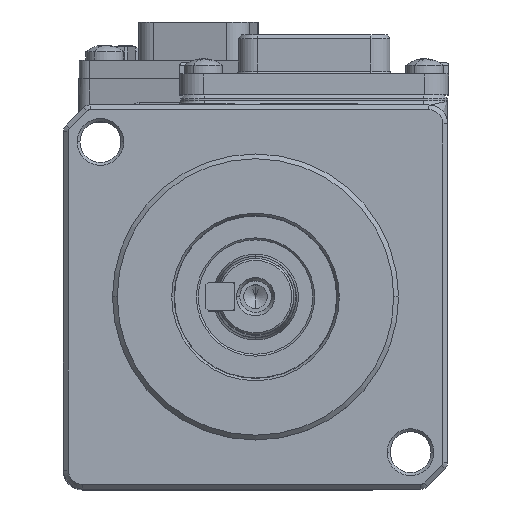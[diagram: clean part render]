
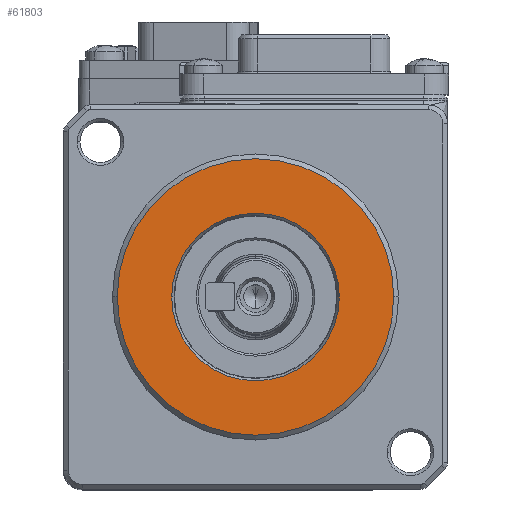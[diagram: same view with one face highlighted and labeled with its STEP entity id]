
A CAD part, top view. The second image highlights one B-rep face of the part: STEP entity #61803.
In plain terms, the highlighted planar face has unit normal (0, 0, 1).
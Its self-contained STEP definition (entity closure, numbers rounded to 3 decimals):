
#5179 = CARTESIAN_POINT ( 'NONE',  ( 0., 0., -3. ) ) ;
#13470 = CARTESIAN_POINT ( 'NONE',  ( 0., 0., -3. ) ) ;
#15336 = FACE_OUTER_BOUND ( 'NONE', #38945, .T. ) ;
#15881 = DIRECTION ( 'NONE',  ( -1., 0., 0. ) ) ;
#16174 = AXIS2_PLACEMENT_3D ( 'NONE', #54671, #53345, #96634 ) ;
#21020 = CARTESIAN_POINT ( 'NONE',  ( 0., 0., -3. ) ) ;
#24811 = DIRECTION ( 'NONE',  ( 0., 0., -1. ) ) ;
#26863 = EDGE_LOOP ( 'NONE', ( #89057, #68048 ) ) ;
#35941 = CARTESIAN_POINT ( 'NONE',  ( 14.5, 0., -3. ) ) ;
#36401 = ORIENTED_EDGE ( 'NONE', *, *, #94189, .F. ) ;
#38945 = EDGE_LOOP ( 'NONE', ( #113575, #36401 ) ) ;
#44780 = DIRECTION ( 'NONE',  ( -1., 0., 0. ) ) ;
#51527 = CARTESIAN_POINT ( 'NONE',  ( -8.789, 0., -3. ) ) ;
#53345 = DIRECTION ( 'NONE',  ( 0., 0., -1. ) ) ;
#54671 = CARTESIAN_POINT ( 'NONE',  ( 0., 14.5, -3. ) ) ;
#54982 = VERTEX_POINT ( 'NONE', #51527 ) ;
#55458 = CIRCLE ( 'NONE', #108756, 8.789 ) ;
#61803 = ADVANCED_FACE ( 'NONE', ( #15336, #94667 ), #106637, .F. ) ;
#63183 = DIRECTION ( 'NONE',  ( -1., 0., 0. ) ) ;
#66694 = EDGE_CURVE ( 'NONE', #91900, #124286, #108240, .T. ) ;
#68048 = ORIENTED_EDGE ( 'NONE', *, *, #82466, .T. ) ;
#79288 = EDGE_CURVE ( 'NONE', #94698, #54982, #110335, .T. ) ;
#82211 = CIRCLE ( 'NONE', #116171, 14.5 ) ;
#82466 = EDGE_CURVE ( 'NONE', #54982, #94698, #55458, .T. ) ;
#86609 = CARTESIAN_POINT ( 'NONE',  ( 8.789, 0., -3. ) ) ;
#86939 = AXIS2_PLACEMENT_3D ( 'NONE', #5179, #119105, #15881 ) ;
#89057 = ORIENTED_EDGE ( 'NONE', *, *, #79288, .T. ) ;
#91234 = AXIS2_PLACEMENT_3D ( 'NONE', #13470, #24811, #44780 ) ;
#91900 = VERTEX_POINT ( 'NONE', #107550 ) ;
#93010 = DIRECTION ( 'NONE',  ( 0., 0., -1. ) ) ;
#94189 = EDGE_CURVE ( 'NONE', #124286, #91900, #82211, .T. ) ;
#94667 = FACE_BOUND ( 'NONE', #26863, .T. ) ;
#94698 = VERTEX_POINT ( 'NONE', #86609 ) ;
#96634 = DIRECTION ( 'NONE',  ( -1., 0., 0. ) ) ;
#101019 = DIRECTION ( 'NONE',  ( -1., 0., 0. ) ) ;
#106637 = PLANE ( 'NONE',  #16174 ) ;
#107550 = CARTESIAN_POINT ( 'NONE',  ( -14.5, 0., -3. ) ) ;
#108240 = CIRCLE ( 'NONE', #91234, 14.5 ) ;
#108756 = AXIS2_PLACEMENT_3D ( 'NONE', #123791, #113799, #63183 ) ;
#110335 = CIRCLE ( 'NONE', #86939, 8.789 ) ;
#113575 = ORIENTED_EDGE ( 'NONE', *, *, #66694, .F. ) ;
#113799 = DIRECTION ( 'NONE',  ( 0., 0., -1. ) ) ;
#116171 = AXIS2_PLACEMENT_3D ( 'NONE', #21020, #93010, #101019 ) ;
#119105 = DIRECTION ( 'NONE',  ( 0., 0., -1. ) ) ;
#123791 = CARTESIAN_POINT ( 'NONE',  ( 0., 0., -3. ) ) ;
#124286 = VERTEX_POINT ( 'NONE', #35941 ) ;
